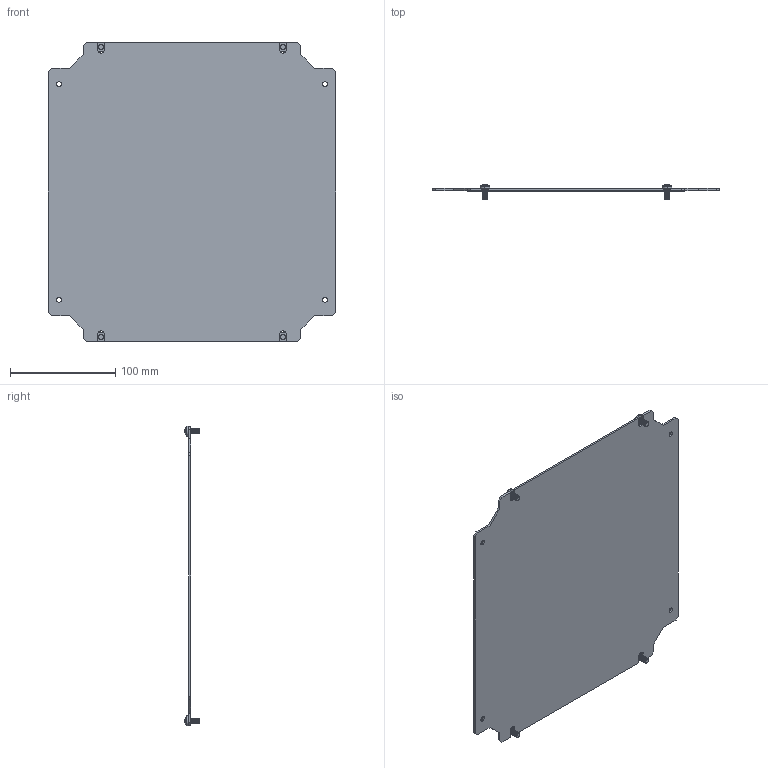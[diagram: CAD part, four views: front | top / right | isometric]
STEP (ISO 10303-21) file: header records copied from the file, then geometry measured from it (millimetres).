
FILE_DESCRIPTION (( 'STEP AP214' ), '1' );
FILE_NAME ('943.233--DM Small 300 W x 300 H Mounting Plate.STEP', '2020-12-03T10:24:34', ( '' ), ( '' ), 'SwSTEP 2.0', 'SolidWorks 2019', '' );
FILE_SCHEMA (( 'AUTOMOTIVE_DESIGN' ));
Length unit declared in the file: millimetre
Products named in the file (8): M5x10; 943.233--DM Small 300 W x 300 H Mounting Plate; M5x10_ISO 7045 - M5 x 10 - Z --- 10C; DM Small Montaj Plakasi 2mm_PP 20.0107 - 300x300; DM Small Montaj Plakasi 2mm
Assembly tree (5 placements, depth 2):
  M5x10
  M5x10
  M5x10
  M5x10
  943.233--DM Small 300 W x 300 H Mounting Plate
    DM Small Montaj Plakasi 2mm_PP 20.0107 - 300x300
    M5x10_ISO 7045 - M5 x 10 - Z --- 10C  x4
Bounding box: 273 x 13.63 x 285.12 mm (x, y, z)
Volume: 150471.9 mm3; surface area: 153233.7 mm2
Topology: 5 solids, 5 shells, 460 faces, 1214 edges, 760 vertices
Faces by surface type: cone 208, cylinder 118, plane 110, torus 16, sphere 8
Entity records: 5136 total; most frequent: DIRECTION 922, CARTESIAN_POINT 866, ORIENTED_EDGE 828, EDGE_CURVE 414, AXIS2_PLACEMENT_3D 353, VERTEX_POINT 265, VECTOR 216, LINE 216
